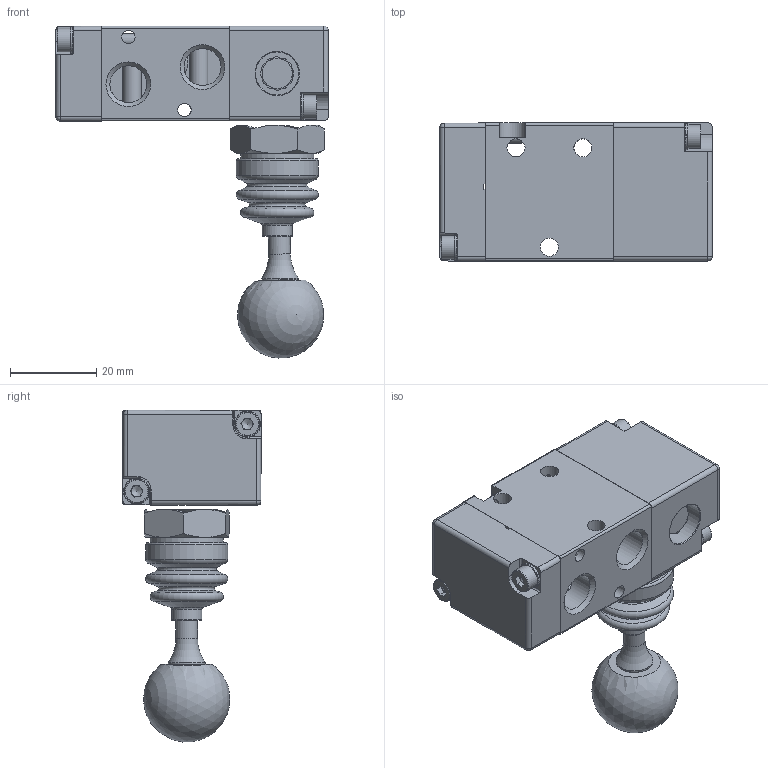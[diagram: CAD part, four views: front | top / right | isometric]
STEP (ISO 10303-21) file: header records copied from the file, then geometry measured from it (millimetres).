
FILE_DESCRIPTION (( 'STEP AP214' ), '1' );
FILE_NAME ('282401.STEP', '2013-09-17T14:13:18', ( 'ST01' ), ( '' ), 'SwSTEP 2.0', 'SolidWorks 2012', '' );
FILE_SCHEMA (( 'AUTOMOTIVE_DESIGN' ));
Length unit declared in the file: millimetre
Products named in the file (1): 282401
Bounding box: 63.1 x 32.05 x 76.93 mm (x, y, z)
Surface area: 15450 mm2 (no closed solid volume)
Topology: 0 solids, 20 shells, 248 faces, 736 edges, 490 vertices
Faces by surface type: plane 112, cylinder 71, cone 37, torus 23, sphere 5
Full cylindrical faces by diameter (mm): 2 x2, 3 x2, 3.1 x2, 4.2 x3, 5 x1, 5.5 x4, 7 x1, 8.5 x1, 8.566 x3, 10 x2, 16.9 x1, 19 x1
Entity records: 11419 total; most frequent: CARTESIAN_POINT 2455, DIRECTION 1296, ORIENTED_EDGE 1105, EDGE_CURVE 666, AXIS2_PLACEMENT_3D 493, VERTEX_POINT 478, EDGE_LOOP 350, VECTOR 310
